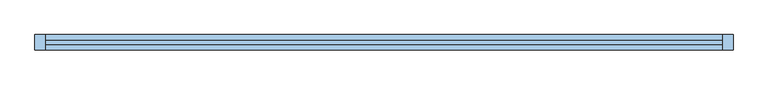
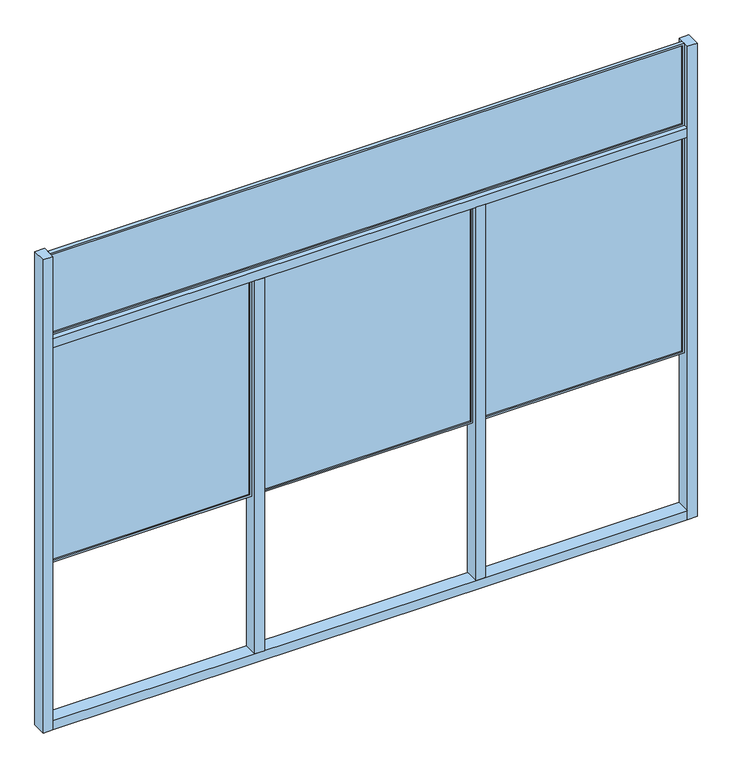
"""IFC4 building model written with IfcOpenShell, lengths in millimetres: window geometry, A6 Divisor laboratorios 3 paños : A6.2 Divisor laboratorios 340x260 parante intermedio desde suelo."""

from ifc_helpers import new_model, si_unit, frame, origin, origin_with_axes, place, context, project, spatial, polyline, outline, extrude, source, transform, mapped, element, save


def window_1c25787f(model_context):
    return source(origin(), model_context, "Body", "SweptSolid", [
        extrude(outline(polyline([(-1650.0, 162.5), (-1650.0, 87.5), (-1700.0, 87.5), (-1700.0, 162.5), (-1650.0, 162.5)])), origin_with_axes(), (0.0, 0.0, 1.0), 2600.0),
        extrude(outline(polyline([(-550.0, 162.5), (-550.0, 87.5), (-600.0, 87.5), (-600.0, 162.5), (-550.0, 162.5)])), frame((0.0, 0.0, 50.0), z_axis=(0.0, 0.0, 1.0), x_axis=(1.0, 0.0, 0.0)), (0.0, 0.0, 1.0), 2050.0),
        extrude(outline(polyline([(1700.0, 162.5), (1700.0, 87.5), (1650.0, 87.5), (1650.0, 162.5), (1700.0, 162.5)])), origin_with_axes(), (0.0, 0.0, 1.0), 2600.0),
        extrude(outline(polyline([(600.0, 162.5), (600.0, 87.5), (550.0, 87.5), (550.0, 162.5), (600.0, 162.5)])), frame((0.0, 0.0, 50.0), z_axis=(0.0, 0.0, 1.0), x_axis=(1.0, 0.0, 0.0)), (0.0, 0.0, 1.0), 2050.0),
        extrude(outline(polyline([(-610.0, 128.0), (-610.0, 122.0), (-1640.0, 122.0), (-1640.0, 128.0), (-610.0, 128.0)])), frame((0.0, 0.0, 910.0), z_axis=(0.0, 0.0, 1.0), x_axis=(1.0, 0.0, 0.0)), (0.0, 0.0, 1.0), 1180.0),
        extrude(outline(polyline([(1640.0, 128.0), (1640.0, 122.0), (-1640.0, 122.0), (-1640.0, 128.0), (1640.0, 128.0)])), frame((0.0, 0.0, 2160.0), z_axis=(0.0, 0.0, 1.0), x_axis=(1.0, 0.0, 0.0)), (0.0, 0.0, 1.0), 430.0),
        extrude(outline(polyline([(540.0, 128.0), (540.0, 122.0), (-540.0, 122.0), (-540.0, 128.0), (540.0, 128.0)])), frame((0.0, 0.0, 910.0), z_axis=(0.0, 0.0, 1.0), x_axis=(1.0, 0.0, 0.0)), (0.0, 0.0, 1.0), 1180.0),
        extrude(outline(polyline([(1640.0, 128.0), (1640.0, 122.0), (610.0, 122.0), (610.0, 128.0), (1640.0, 128.0)])), frame((0.0, 0.0, 910.0), z_axis=(0.0, 0.0, 1.0), x_axis=(1.0, 0.0, 0.0)), (0.0, 0.0, 1.0), 1180.0),
        extrude(outline(polyline([(2100.0, -600.0), (2100.0, -1650.0), (900.0, -1650.0), (900.0, -600.0), (2100.0, -600.0)]), holes=[polyline([(2090.0, -610.0), (910.0, -610.0), (910.0, -1640.0), (2090.0, -1640.0), (2090.0, -610.0)])]), frame((0.0, 115.0, 0.0), z_axis=(0.0, 1.0, 0.0), x_axis=(0.0, 0.0, 1.0)), (0.0, 0.0, 1.0), 20.0),
        extrude(outline(polyline([(2600.0, 1650.0), (2600.0, -1650.0), (2150.0, -1650.0), (2150.0, 1650.0), (2600.0, 1650.0)]), holes=[polyline([(2590.0, 1640.0), (2160.0, 1640.0), (2160.0, -1640.0), (2590.0, -1640.0), (2590.0, 1640.0)])]), frame((0.0, 115.0, 0.0), z_axis=(0.0, 1.0, 0.0), x_axis=(0.0, 0.0, 1.0)), (0.0, 0.0, 1.0), 20.0),
        extrude(outline(polyline([(2100.0, 550.0), (2100.0, -550.0), (900.0, -550.0), (900.0, 550.0), (2100.0, 550.0)]), holes=[polyline([(2090.0, 540.0), (910.0, 540.0), (910.0, -540.0), (2090.0, -540.0), (2090.0, 540.0)])]), frame((0.0, 115.0, 0.0), z_axis=(0.0, 1.0, 0.0), x_axis=(0.0, 0.0, 1.0)), (0.0, 0.0, 1.0), 20.0),
        extrude(outline(polyline([(2100.0, 1650.0), (2100.0, 600.0), (900.0, 600.0), (900.0, 1650.0), (2100.0, 1650.0)]), holes=[polyline([(2090.0, 1640.0), (910.0, 1640.0), (910.0, 610.0), (2090.0, 610.0), (2090.0, 1640.0)])]), frame((0.0, 115.0, 0.0), z_axis=(0.0, 1.0, 0.0), x_axis=(0.0, 0.0, 1.0)), (0.0, 0.0, 1.0), 20.0),
        extrude(outline(polyline([(1650.0, 162.5), (1650.0, 87.5), (-1650.0, 87.5), (-1650.0, 162.5), (1650.0, 162.5)])), frame((0.0, 0.0, 2100.0), z_axis=(0.0, 0.0, 1.0), x_axis=(1.0, 0.0, 0.0)), (0.0, 0.0, 1.0), 50.0),
        extrude(outline(polyline([(1650.0, 87.5), (-1650.0, 87.5), (-1650.0, 162.5), (1650.0, 162.5), (1650.0, 87.5)])), origin_with_axes(), (0.0, 0.0, 1.0), 50.0),
    ])


if __name__ == "__main__":
    model = new_model("IFC4")
    model_context = context("Model", 3, world=origin())
    ifc_project = project(units=[si_unit("LENGTHUNIT", "METRE", prefix="MILLI")], contexts=[model_context])
    site = spatial("IfcSite", under=ifc_project)
    building = spatial("IfcBuilding", under=site)
    placement = place(None, origin())
    window_shape = window_1c25787f(model_context)
    element("IfcWindow", 1, ObjectType="A6 Divisor laboratorios 3 paños : A6.2 Divisor laboratorios 340x260 parante intermedio desde suelo", at=placement, inside=building, context=model_context, shape_type="MappedRepresentation", body=[
        mapped(window_shape, transform((0.0, 0.0, 0.0), x_axis=(1.0, 0.0, 0.0), y_axis=(0.0, 1.0, 0.0), z_axis=(0.0, 0.0, 1.0))),
    ])
    save(model, "model.ifc")
